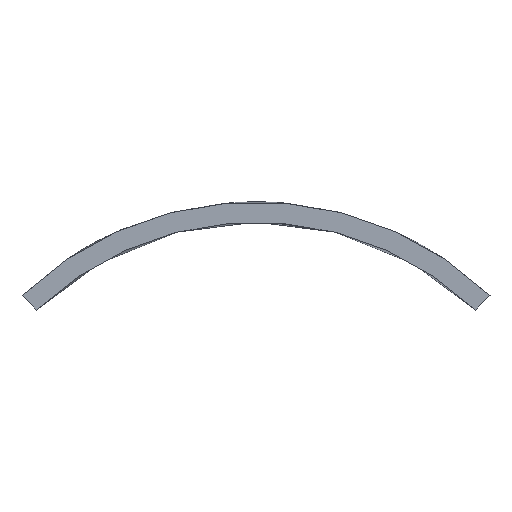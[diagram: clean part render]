
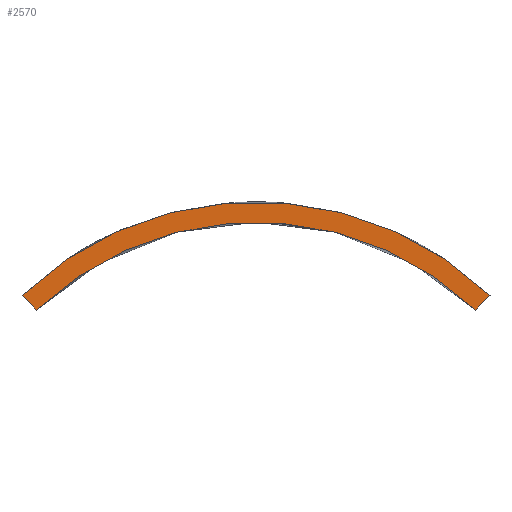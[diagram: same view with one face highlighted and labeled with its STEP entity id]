
A CAD part, left-side view. The second image highlights one B-rep face of the part: STEP entity #2570.
In plain terms, the highlighted planar face has unit normal (-1, 0, 0).
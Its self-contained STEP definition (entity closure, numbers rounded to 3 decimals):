
#21 = EDGE_CURVE('',#22,#24,#26,.T.);
#22 = VERTEX_POINT('',#23);
#23 = CARTESIAN_POINT('',(62.3,13.784,14.491));
#24 = VERTEX_POINT('',#25);
#25 = CARTESIAN_POINT('',(62.3,-13.784,14.491));
#26 = SURFACE_CURVE('',#27,(#32,#44),.PCURVE_S1.);
#27 = CIRCLE('',#28,20.);
#28 = AXIS2_PLACEMENT_3D('',#29,#30,#31);
#29 = CARTESIAN_POINT('',(62.3,0.,0.));
#30 = DIRECTION('',(1.,0.,0.));
#31 = DIRECTION('',(-0.,1.,0.));
#32 = PCURVE('',#33,#38);
#33 = CYLINDRICAL_SURFACE('',#34,20.);
#34 = AXIS2_PLACEMENT_3D('',#35,#36,#37);
#35 = CARTESIAN_POINT('',(42.,0.,0.));
#36 = DIRECTION('',(1.,0.,0.));
#37 = DIRECTION('',(-0.,1.,0.));
#38 = DEFINITIONAL_REPRESENTATION('',(#39),#43);
#39 = LINE('',#40,#41);
#40 = CARTESIAN_POINT('',(0.,20.3));
#41 = VECTOR('',#42,1.);
#42 = DIRECTION('',(1.,0.));
#43 = ( GEOMETRIC_REPRESENTATION_CONTEXT(2) 
PARAMETRIC_REPRESENTATION_CONTEXT() REPRESENTATION_CONTEXT('2D SPACE',''
  ) );
#44 = PCURVE('',#45,#50);
#45 = PLANE('',#46);
#46 = AXIS2_PLACEMENT_3D('',#47,#48,#49);
#47 = CARTESIAN_POINT('',(62.3,0.,0.));
#48 = DIRECTION('',(-1.,0.,0.));
#49 = DIRECTION('',(0.,-0.689,0.725));
#50 = DEFINITIONAL_REPRESENTATION('',(#51),#59);
#51 = ( BOUNDED_CURVE() B_SPLINE_CURVE(2,(#52,#53,#54,#55,#56,#57,#58),
.UNSPECIFIED.,.T.,.F.) B_SPLINE_CURVE_WITH_KNOTS((1,2,2,2,2,1),(
    -2.094,0.,2.094,4.189,6.283,
8.378),.UNSPECIFIED.) CURVE() GEOMETRIC_REPRESENTATION_ITEM() 
RATIONAL_B_SPLINE_CURVE((1.,0.5,1.,0.5,1.,0.5,1.)) REPRESENTATION_ITEM(
  '') );
#52 = CARTESIAN_POINT('',(-13.784,14.491));
#53 = CARTESIAN_POINT('',(11.315,38.366));
#54 = CARTESIAN_POINT('',(19.442,4.692));
#55 = CARTESIAN_POINT('',(27.568,-28.982));
#56 = CARTESIAN_POINT('',(-5.658,-19.183));
#57 = CARTESIAN_POINT('',(-38.884,-9.384));
#58 = CARTESIAN_POINT('',(-13.784,14.491));
#59 = ( GEOMETRIC_REPRESENTATION_CONTEXT(2) 
PARAMETRIC_REPRESENTATION_CONTEXT() REPRESENTATION_CONTEXT('2D SPACE',''
  ) );
#77 = PLANE('',#78);
#78 = AXIS2_PLACEMENT_3D('',#79,#80,#81);
#79 = CARTESIAN_POINT('',(194.,0.,0.));
#80 = DIRECTION('',(-0.,0.725,0.689));
#81 = DIRECTION('',(0.,-0.689,0.725));
#372 = PLANE('',#373);
#373 = AXIS2_PLACEMENT_3D('',#374,#375,#376);
#374 = CARTESIAN_POINT('',(194.,17.919,18.839));
#375 = DIRECTION('',(0.,-0.725,0.689));
#376 = DIRECTION('',(0.,-0.689,-0.725));
#1466 = CYLINDRICAL_SURFACE('',#1467,18.8);
#1467 = AXIS2_PLACEMENT_3D('',#1468,#1469,#1470);
#1468 = CARTESIAN_POINT('',(42.,0.,0.));
#1469 = DIRECTION('',(1.,0.,0.));
#1470 = DIRECTION('',(-0.,1.,0.));
#1530 = EDGE_CURVE('',#1531,#1533,#1535,.T.);
#1531 = VERTEX_POINT('',#1532);
#1532 = CARTESIAN_POINT('',(62.3,12.957,13.622));
#1533 = VERTEX_POINT('',#1534);
#1534 = CARTESIAN_POINT('',(62.3,-12.957,13.622));
#1535 = SURFACE_CURVE('',#1536,(#1541,#1548),.PCURVE_S1.);
#1536 = CIRCLE('',#1537,18.8);
#1537 = AXIS2_PLACEMENT_3D('',#1538,#1539,#1540);
#1538 = CARTESIAN_POINT('',(62.3,0.,0.));
#1539 = DIRECTION('',(1.,0.,0.));
#1540 = DIRECTION('',(-0.,1.,0.));
#1541 = PCURVE('',#1466,#1542);
#1542 = DEFINITIONAL_REPRESENTATION('',(#1543),#1547);
#1543 = LINE('',#1544,#1545);
#1544 = CARTESIAN_POINT('',(0.,20.3));
#1545 = VECTOR('',#1546,1.);
#1546 = DIRECTION('',(1.,0.));
#1547 = ( GEOMETRIC_REPRESENTATION_CONTEXT(2) 
PARAMETRIC_REPRESENTATION_CONTEXT() REPRESENTATION_CONTEXT('2D SPACE',''
  ) );
#1548 = PCURVE('',#45,#1549);
#1549 = DEFINITIONAL_REPRESENTATION('',(#1550),#1558);
#1550 = ( BOUNDED_CURVE() B_SPLINE_CURVE(2,(#1551,#1552,#1553,#1554,
#1555,#1556,#1557),.UNSPECIFIED.,.T.,.F.) B_SPLINE_CURVE_WITH_KNOTS((1,2
    ,2,2,2,1),(-2.094,0.,2.094,4.189,
6.283,8.378),.UNSPECIFIED.) CURVE() 
GEOMETRIC_REPRESENTATION_ITEM() RATIONAL_B_SPLINE_CURVE((1.,0.5,1.,0.5,
1.,0.5,1.)) REPRESENTATION_ITEM('') );
#1551 = CARTESIAN_POINT('',(-12.957,13.622));
#1552 = CARTESIAN_POINT('',(10.636,36.064));
#1553 = CARTESIAN_POINT('',(18.275,4.41));
#1554 = CARTESIAN_POINT('',(25.914,-27.244));
#1555 = CARTESIAN_POINT('',(-5.318,-18.032));
#1556 = CARTESIAN_POINT('',(-36.551,-8.821));
#1557 = CARTESIAN_POINT('',(-12.957,13.622));
#1558 = ( GEOMETRIC_REPRESENTATION_CONTEXT(2) 
PARAMETRIC_REPRESENTATION_CONTEXT() REPRESENTATION_CONTEXT('2D SPACE',''
  ) );
#2371 = EDGE_CURVE('',#22,#1531,#2372,.T.);
#2372 = SURFACE_CURVE('',#2373,(#2377,#2384),.PCURVE_S1.);
#2373 = LINE('',#2374,#2375);
#2374 = CARTESIAN_POINT('',(62.3,17.919,18.839));
#2375 = VECTOR('',#2376,1.);
#2376 = DIRECTION('',(0.,-0.689,-0.725));
#2377 = PCURVE('',#372,#2378);
#2378 = DEFINITIONAL_REPRESENTATION('',(#2379),#2383);
#2379 = LINE('',#2380,#2381);
#2380 = CARTESIAN_POINT('',(-0.,-131.7));
#2381 = VECTOR('',#2382,1.);
#2382 = DIRECTION('',(1.,0.));
#2383 = ( GEOMETRIC_REPRESENTATION_CONTEXT(2) 
PARAMETRIC_REPRESENTATION_CONTEXT() REPRESENTATION_CONTEXT('2D SPACE',''
  ) );
#2384 = PCURVE('',#45,#2385);
#2385 = DEFINITIONAL_REPRESENTATION('',(#2386),#2390);
#2386 = LINE('',#2387,#2388);
#2387 = CARTESIAN_POINT('',(1.299,25.968));
#2388 = VECTOR('',#2389,1.);
#2389 = DIRECTION('',(-0.05,-0.999));
#2390 = ( GEOMETRIC_REPRESENTATION_CONTEXT(2) 
PARAMETRIC_REPRESENTATION_CONTEXT() REPRESENTATION_CONTEXT('2D SPACE',''
  ) );
#2548 = EDGE_CURVE('',#1533,#24,#2549,.T.);
#2549 = SURFACE_CURVE('',#2550,(#2554,#2561),.PCURVE_S1.);
#2550 = LINE('',#2551,#2552);
#2551 = CARTESIAN_POINT('',(62.3,0.,0.));
#2552 = VECTOR('',#2553,1.);
#2553 = DIRECTION('',(0.,-0.689,0.725));
#2554 = PCURVE('',#77,#2555);
#2555 = DEFINITIONAL_REPRESENTATION('',(#2556),#2560);
#2556 = LINE('',#2557,#2558);
#2557 = CARTESIAN_POINT('',(0.,-131.7));
#2558 = VECTOR('',#2559,1.);
#2559 = DIRECTION('',(1.,0.));
#2560 = ( GEOMETRIC_REPRESENTATION_CONTEXT(2) 
PARAMETRIC_REPRESENTATION_CONTEXT() REPRESENTATION_CONTEXT('2D SPACE',''
  ) );
#2561 = PCURVE('',#45,#2562);
#2562 = DEFINITIONAL_REPRESENTATION('',(#2563),#2567);
#2563 = LINE('',#2564,#2565);
#2564 = CARTESIAN_POINT('',(0.,0.));
#2565 = VECTOR('',#2566,1.);
#2566 = DIRECTION('',(1.,0.));
#2567 = ( GEOMETRIC_REPRESENTATION_CONTEXT(2) 
PARAMETRIC_REPRESENTATION_CONTEXT() REPRESENTATION_CONTEXT('2D SPACE',''
  ) );
#2570 = ADVANCED_FACE('',(#2571),#45,.T.);
#2571 = FACE_BOUND('',#2572,.T.);
#2572 = EDGE_LOOP('',(#2573,#2574,#2575,#2576));
#2573 = ORIENTED_EDGE('',*,*,#1530,.T.);
#2574 = ORIENTED_EDGE('',*,*,#2548,.T.);
#2575 = ORIENTED_EDGE('',*,*,#21,.F.);
#2576 = ORIENTED_EDGE('',*,*,#2371,.T.);
